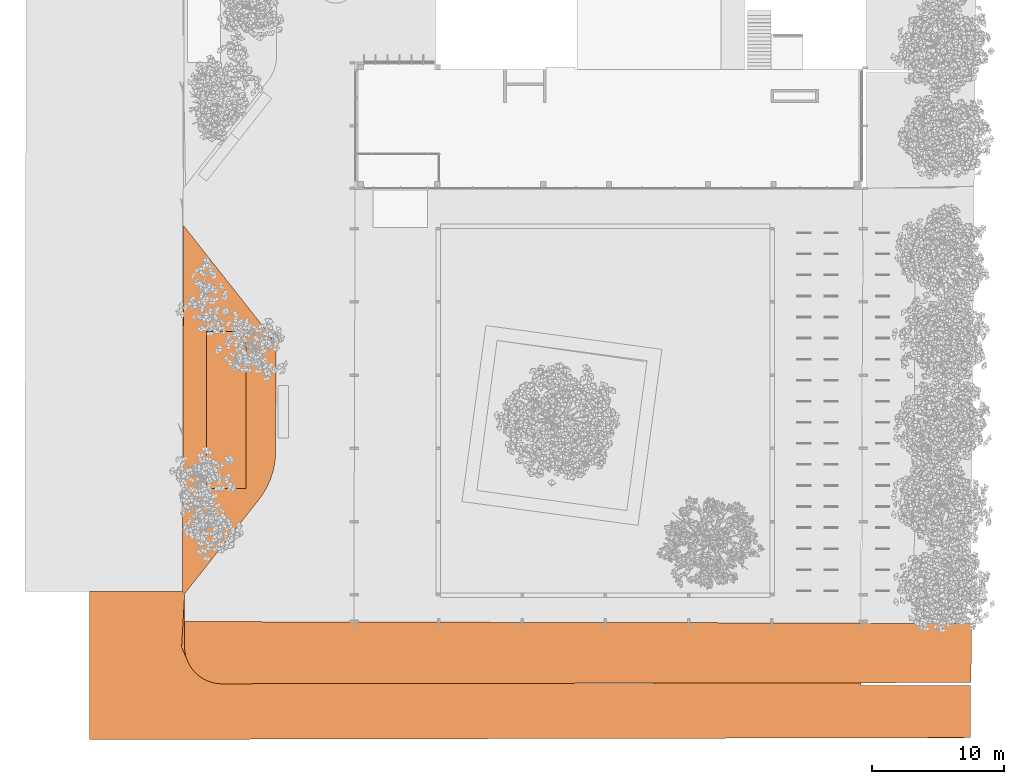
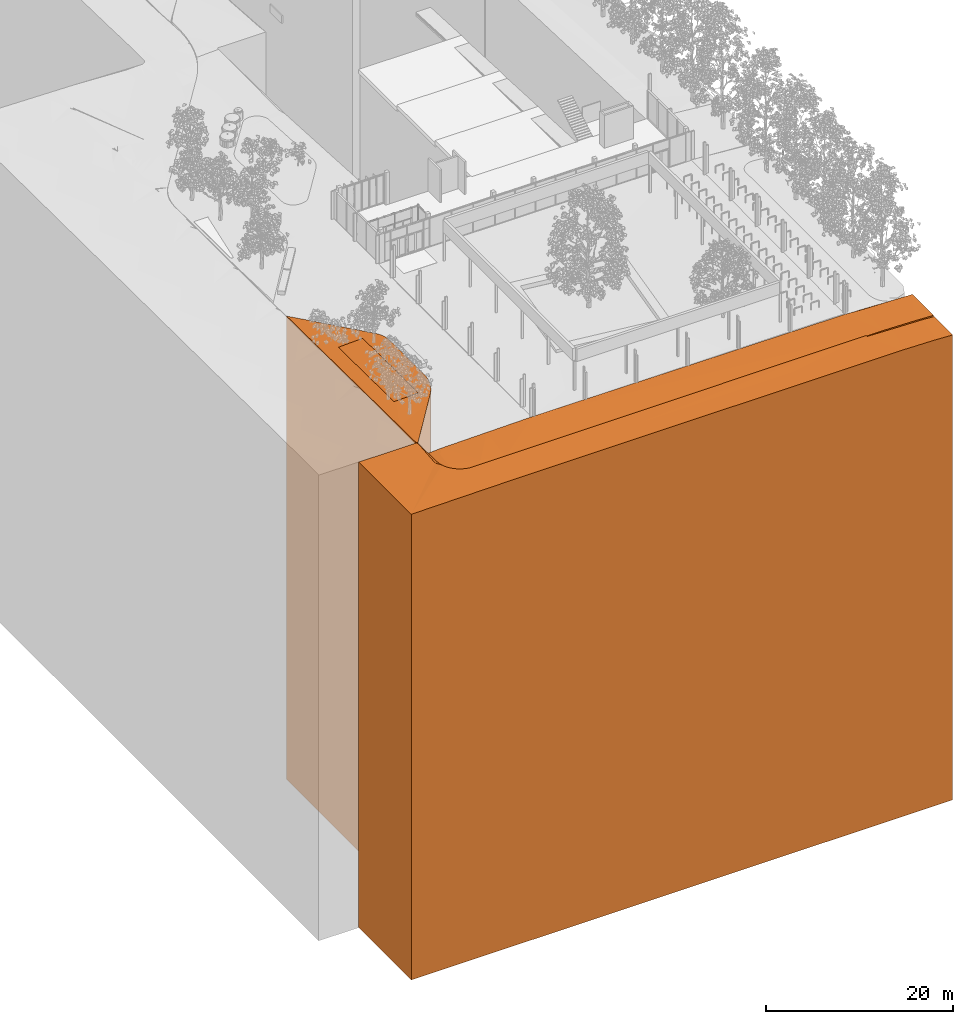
# One storey, part 48 of 69: 4 proxies.
"""IFC2X3 building model written with IfcOpenShell, lengths in millimetres."""

from ifc_helpers import new_model, entity, si_unit, converted_unit, derived_unit, money_unit, direction, frame, origin_with_axes, place, context, subcontext, project, spatial, faceted_brep, material, type_object, element, save


model = new_model("IFC2X3")

# Units and contexts
model_context = context("Model", 3, precision=0.01, world=origin_with_axes(), true_north=direction((0.0, 1.0)))
body_context = subcontext(model_context, "Body", "Model", "MODEL_VIEW")
ifc_project = project(units=[si_unit("LENGTHUNIT", "METRE", prefix="MILLI"), si_unit("AREAUNIT", "SQUARE_METRE"), si_unit("VOLUMEUNIT", "CUBIC_METRE"), converted_unit("PLANEANGLEUNIT", "DEGREE", entity("IfcPlaneAngleMeasure", 0.0174532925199), si_unit("PLANEANGLEUNIT", "RADIAN"), dimensions=[0, 0, 0, 0, 0, 0, 0]), si_unit("SOLIDANGLEUNIT", "STERADIAN"), money_unit("EUR"), converted_unit("TIMEUNIT", "Year", entity("IfcTimeMeasure", 31556926.0), si_unit("TIMEUNIT", "SECOND"), dimensions=[0, 0, 1, 0, 0, 0, 0]), si_unit("MASSUNIT", "GRAM", prefix="KILO"), si_unit("THERMODYNAMICTEMPERATUREUNIT", "DEGREE_CELSIUS"), si_unit("LUMINOUSINTENSITYUNIT", "LUMEN"), si_unit("ENERGYUNIT", "JOULE", prefix="MEGA"), derived_unit("THERMALCONDUCTANCEUNIT", [(si_unit("POWERUNIT", "WATT"), 1), (si_unit("LENGTHUNIT", "METRE"), -1), (si_unit("THERMODYNAMICTEMPERATUREUNIT", "KELVIN"), -1)]), derived_unit("SPECIFICHEATCAPACITYUNIT", [(si_unit("ENERGYUNIT", "JOULE"), 1), (si_unit("MASSUNIT", "GRAM", prefix="KILO"), -1), (si_unit("THERMODYNAMICTEMPERATUREUNIT", "KELVIN"), -1)]), derived_unit("MASSDENSITYUNIT", [(si_unit("MASSUNIT", "GRAM", prefix="KILO"), 1), (si_unit("VOLUMEUNIT", "CUBIC_METRE"), -1)])], contexts=[model_context])

# Site, building, storey
site_placement = place(None, origin_with_axes())
site = spatial("IfcSite", under=ifc_project, at=site_placement, Name="Puškini 31, Narva", CompositionType="ELEMENT")
building_placement = place(site_placement, origin_with_axes())
building = spatial("IfcBuilding", under=site, at=building_placement, Name="Narva Riigigümnaasium", CompositionType="ELEMENT")
storey_placement = place(building_placement, origin_with_axes())
storey = spatial("IfcBuildingStorey", under=building, at=storey_placement, Name="1.korrus 0.00", CompositionType="ELEMENT", Elevation=0.0)

# Proxies
ifc_material_1 = material(Name="Roheala")
building_element_proxy_type_1 = type_object("IfcBuildingElementProxyType", Name="Roheala", PredefinedType="NOTDEFINED")
proxy_1_placement = place(storey_placement, frame((2774.15413761, 119172.132601, -61100.0), z_axis=(0.0, 0.0, 1.0), x_axis=(1.0, 0.0, 0.0)))
element("IfcBuildingElementProxy", 1, at=proxy_1_placement, inside=storey, type_object=building_element_proxy_type_1, material=ifc_material_1, Name="Roheala", context=body_context, shape_type="Brep", body=[
    faceted_brep([(4825.63867987, 19923.3089238, 60816.1402617), (4825.63867987, 13461.9484212, 60892.0731294), (5240.22777887, 14308.0528302, 60900.0), (4960.60028011, 21791.7442081, 60800.0), (4451.18321371, 19923.3089238, 60800.0), (4825.63867987, 19923.3089238, 32257.881548), (4825.63867987, 7991.30514458, 32257.881548), (4825.63867987, 7991.30514458, 60901.2047641), (4825.63867987, 8354.89297496, 60900.0), (6470.25903788, 19880.0733385, 60890.0), (2131.17457914, 19923.3089238, 60700.0), (3236.0033531, 23975.5898556, 60700.0), (1832.46950617, 19923.3089238, 60687.1248293), (1832.46950617, 19923.3089238, 32257.881548), (1832.46950617, 7991.30514458, 32257.881548), (4800.31774869, 7991.30514458, 60900.0), (1832.46950617, 7991.30514458, 60827.3478154), (2145.03680281, 7991.30514458, 60840.8204935), (4654.822459, 5902.11196556, 60900.0), (5790.7729983, 7123.84475448, 60950.0), (6717.50851466, 19505.6808715, 60900.0), (6470.25903788, 19880.0733385, 0.0), (4960.60028011, 21791.7442081, 0.0), (76.5266882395, 27976.4141958, 0.0), (76.5266882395, 27976.4141958, 60500.0), (1511.40642609, 26159.435503, 60600.0), (60.3245365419, 20837.1705421, 60600.0), (35.1893130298, 12235.6732219, 60700.0), (1832.46950617, 18827.721173, 60700.0), (1832.46950617, 10318.4145974, 60800.0), (10.0540894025, 3634.17590181, 60800.0), (165.18756994, 0.0, 60900.0), (5867.12988404, 7220.5508158, 60950.0), (6581.21980933, 19729.1790257, 60890.9943501), (7097.52030184, 18037.9322682, 60900.0), (6581.21980933, 19729.1790257, 0.0), (6674.98604806, 19581.9145475, 0.0), (6717.50851466, 19505.6808715, 0.0), (6742.25604605, 19463.0906922, 0.0), (6820.27817634, 19306.9129689, 0.0), (6889.08737852, 19146.4628901, 0.0), (6948.45082405, 18982.2833682, 0.0), (6998.16764581, 18814.9299347, 0.0), (7038.06961782, 18644.9688606, 0.0), (7068.02172443, 18472.9752404, 0.0), (7087.92261719, 18299.5310461, 0.0), (7097.70495779, 18125.2231579, 0.0), (7097.52030184, 18037.9322682, 0.0), (7081.69872227, 10828.8625457, 0.0), (7079.94003868, 10651.0748311, 0.0), (7067.04399308, 10404.9784329, 0.0), (7044.0553256, 10159.6189694, 0.0), (7011.01280034, 9915.41017202, 0.0), (6967.97213448, 9672.76383212, 0.0), (6915.00590431, 9432.08910629, 0.0), (6852.20342287, 9193.79182659, 0.0), (6779.67058937, 8958.27381613, 0.0), (6697.52971057, 8725.93221155, 0.0), (6605.91929457, 8497.15879337, 0.0), (6504.99381725, 8272.33932531, 0.0), (6394.92346181, 8051.85290387, 0.0), (6275.89383175, 7836.07131903, 0.0), (6148.10563798, 7625.35842735, 0.0), (6011.77436028, 7420.06953844, 0.0), (5867.12988404, 7220.5508158, 0.0), (5790.7729983, 7123.84475448, 0.0), (165.18756994, 0.0, 0.0), (0.0, 193.576973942, 0.0), (0.0, 193.576973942, 60900.0), (6011.77436028, 7420.06953844, 60950.0), (6674.98604806, 19581.9145475, 60891.9222316), (7081.69872227, 10828.8625457, 60950.0), (6998.16764581, 18814.9299347, 60896.096912), (6742.25604605, 19463.0906922, 60892.6231794), (6820.27817634, 19306.9129689, 60893.4807876), (6889.08737852, 19146.4628901, 60894.3475712), (6948.45082405, 18982.2833682, 60895.2205973), (7038.06961782, 18644.9688606, 60896.9735499), (7068.02172443, 18472.9752404, 60897.847545), (7087.92261719, 18299.5310461, 60898.7159398), (7097.70495779, 18125.2231579, 60899.575796), (7079.94003868, 10651.0748311, 60950.0), (7067.04399308, 10404.9784329, 60950.0), (7044.0553256, 10159.6189694, 60950.0), (7011.01280034, 9915.41017202, 60950.0), (6967.97213448, 9672.76383212, 60950.0), (6915.00590431, 9432.08910629, 60950.0), (6852.20342287, 9193.79182659, 60950.0), (6779.67058937, 8958.27381613, 60950.0), (6697.52971057, 8725.93221155, 60950.0), (6605.91929457, 8497.15879337, 60950.0), (6504.99381725, 8272.33932531, 60950.0), (6394.92346181, 8051.85290387, 60950.0), (6275.89383175, 7836.07131903, 60950.0), (6148.10563798, 7625.35842735, 60950.0)], [[[0, 1, 2, 3, 4]], [[1, 0, 5, 6, 7, 8]], [[1, 8, 2]], [[2, 9, 3]], [[10, 4, 3, 11]], [[0, 4, 10, 12, 13, 5]], [[5, 13, 14, 6]], [[15, 7, 6, 14, 16, 17]], [[7, 15, 18, 19, 2, 8]], [[20, 9, 2]], [[21, 22, 3, 9]], [[22, 23, 24, 25, 11, 3]], [[12, 10, 11, 25, 26, 27, 28]], [[12, 28, 29, 16, 14, 13]], [[16, 29, 30, 17]], [[15, 17, 30, 18]], [[19, 18, 31]], [[19, 32, 2]], [[33, 9, 20]], [[2, 34, 20]], [[22, 21, 35, 36, 37, 38, 39, 40, 41, 42, 43, 44, 45, 46, 47, 48, 49, 50, 51, 52, 53, 54, 55, 56, 57, 58, 59, 60, 61, 62, 63, 64, 65, 66, 67, 23]], [[35, 21, 9, 33]], [[23, 67, 68, 24]], [[25, 24, 26]], [[27, 26, 24, 30]], [[29, 28, 27, 30]], [[30, 31, 18]], [[66, 65, 19, 31]], [[65, 64, 32, 19]], [[32, 69, 2]], [[20, 70, 33]], [[71, 34, 2]], [[20, 34, 72]], [[36, 35, 33, 70]], [[37, 36, 70, 20]], [[38, 37, 20, 73]], [[39, 38, 73, 74]], [[40, 39, 74, 75]], [[41, 40, 75, 76]], [[42, 41, 76, 72]], [[43, 42, 72, 77]], [[44, 43, 77, 78]], [[45, 44, 78, 79]], [[46, 45, 79, 80]], [[47, 46, 80, 34]], [[48, 47, 34, 71]], [[49, 48, 71, 81]], [[50, 49, 81, 82]], [[51, 50, 82, 83]], [[52, 51, 83, 84]], [[53, 52, 84, 85]], [[54, 53, 85, 86]], [[55, 54, 86, 87]], [[56, 55, 87, 88]], [[57, 56, 88, 89]], [[58, 57, 89, 90]], [[59, 58, 90, 91]], [[60, 59, 91, 92]], [[61, 60, 92, 93]], [[62, 61, 93, 94]], [[63, 62, 94, 69]], [[64, 63, 69, 32]], [[67, 66, 31, 68]], [[68, 30, 24]], [[30, 68, 31]], [[69, 94, 2]], [[81, 71, 2]], [[78, 77, 72, 34, 80, 79]], [[72, 76, 20]], [[74, 73, 20]], [[75, 74, 20]], [[76, 75, 20]], [[82, 81, 2]], [[83, 82, 2]], [[84, 83, 2]], [[85, 84, 2]], [[86, 85, 2]], [[87, 86, 2]], [[88, 87, 2]], [[89, 88, 2]], [[90, 89, 2]], [[91, 90, 2]], [[92, 91, 2]], [[93, 92, 2]], [[94, 93, 2]]]),
])
ifc_material_2 = material(Name="Sillutiskivi")
building_element_proxy_type_2 = type_object("IfcBuildingElementProxyType", Name="Sillutiskivi", PredefinedType="NOTDEFINED")
proxy_2_placement = place(storey_placement, frame((2930.58514383, 112324.27083, -61100.0), z_axis=(0.0, 0.0, 1.0), x_axis=(1.0, 0.0, 0.0)))
element("IfcBuildingElementProxy", 2, at=proxy_2_placement, inside=storey, type_object=building_element_proxy_type_2, material=ifc_material_2, Name="Kergliiklustee", context=body_context, shape_type="Brep", body=[
    faceted_brep([(806.197300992, 1641.80617285, 60900.0), (957.892684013, 3727.66316179, 60900.0), (9.46257787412, 2603.0464292, 60800.0), (4191.0815358, 679.800824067, 60900.0), (1719.62662806, 4724.80547975, 60900.0), (-0.178361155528, 2771.75536644, 60800.0), (29.0810082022, 2435.20492539, 60800.0), (2506.56804783, 19.5065082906, 60800.0), (7271.83500329, 4712.63890108, 61000.0), (4.27615077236, 4728.56433481, 60800.0), (9.46257787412, 2603.0464292, 0.0), (-0.178361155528, 2771.75536644, 0.0), (0.006847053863, 2856.24725363, 60800.0), (58.6080193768, 2268.82040441, 60800.0), (29.0810082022, 2435.20492539, 0.0), (2339.49099468, 44.8227386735, 60800.0), (2674.85141824, 4.13248953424, 60800.0), (4196.60699982, 676.118082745, 60900.0), (4.27615077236, 4728.56433481, 0.0), (12897.320027, 4700.31175097, 61100.0), (51457.2400802, 4615.81522829, 61000.0), (56633.6666627, 4604.47210192, 60800.0), (59813.8369232, 4597.50338082, 60700.0), (59813.8369232, 4597.50338082, 0.0), (0.006847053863, 2856.24725363, 0.0), (59782.2853233, 88.3600568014, 0.0), (5205.55223009, 3.65257402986, 0.0), (2854.42342565, 0.00343275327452, 0.0), (2674.85141824, 4.13248953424, 0.0), (2506.56804783, 19.5065082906, 0.0), (2339.49099468, 44.8227386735, 0.0), (2174.20712303, 79.9922565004, 0.0), (2011.29699852, 124.891527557, 0.0), (1851.33284889, 179.362841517, 0.0), (1694.87655406, 243.214865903, 0.0), (1542.47767247, 316.22331815, 0.0), (1394.67151074, 398.131753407, 0.0), (1251.97724342, 488.652465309, 0.0), (1114.89608931, 587.467496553, 0.0), (983.909550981, 694.229755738, 0.0), (859.477723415, 808.564236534, 0.0), (742.037677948, 930.069334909, 0.0), (632.001927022, 1058.31825977, 0.0), (529.756975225, 1192.8605321, 0.0), (435.661961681, 1333.22356725, 0.0), (350.047398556, 1478.91433494, 0.0), (273.214010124, 1629.42109104, 0.0), (205.431676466, 1784.21517509, 0.0), (146.938485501, 1942.7528672, 0.0), (97.9398966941, 2104.47729796, 0.0), (58.6080193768, 2268.82040441, 0.0), (97.9398966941, 2104.47729796, 60800.0), (2174.20712303, 79.9922565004, 60800.0), (2854.42342565, 0.00343275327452, 60800.0), (6843.33768447, 6.19454897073, 60800.0), (53604.0268606, 78.7709023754, 60900.0), (53630.4040167, 4572.75956829, 60900.0), (57429.5444773, 84.7084136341, 60800.0), (59782.2853233, 88.3600568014, 60700.0), (5205.55223009, 3.65257402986, 60800.0), (2011.29699852, 124.891527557, 60800.0), (1851.33284889, 179.362841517, 60800.0), (1694.87655406, 243.214865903, 60800.0), (1542.47767247, 316.22331815, 60800.0), (1394.67151074, 398.131753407, 60800.0), (1251.97724342, 488.652465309, 60800.0), (1114.89608931, 587.467496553, 60800.0), (983.909550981, 694.229755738, 60800.0), (859.477723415, 808.564236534, 60800.0), (742.037677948, 930.069334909, 60800.0), (632.001927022, 1058.31825977, 60800.0), (529.756975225, 1192.8605321, 60800.0), (435.661961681, 1333.22356725, 60800.0), (350.047398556, 1478.91433494, 60800.0), (273.214010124, 1629.42109104, 60800.0), (205.431676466, 1784.21517509, 60800.0), (146.938485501, 1942.7528672, 60800.0)], [[[0, 1, 2]], [[1, 0, 3, 4]], [[5, 2, 1]], [[6, 0, 2]], [[0, 7, 3]], [[4, 3, 8]], [[4, 9, 1]], [[10, 2, 5, 11]], [[12, 5, 1]], [[13, 0, 6]], [[14, 6, 2, 10]], [[15, 7, 0]], [[16, 3, 7]], [[3, 17, 8]], [[18, 9, 4, 8, 19, 20, 21, 22, 23]], [[12, 1, 9]], [[11, 5, 12, 24]], [[18, 23, 25, 26, 27, 28, 29, 30, 31, 32, 33, 34, 35, 36, 37, 38, 39, 40, 41, 42, 43, 44, 45, 46, 47, 48, 49, 50, 14, 10, 11, 24]], [[51, 0, 13]], [[50, 13, 6, 14]], [[29, 7, 15, 30]], [[52, 15, 0]], [[53, 3, 16]], [[28, 16, 7, 29]], [[53, 17, 3]], [[54, 8, 17]], [[24, 12, 9, 18]], [[19, 8, 54]], [[20, 19, 55]], [[21, 20, 56]], [[22, 21, 57]], [[23, 22, 58, 25]], [[25, 58, 57, 55, 54, 59, 26]], [[26, 59, 53, 27]], [[27, 53, 16, 28]], [[30, 15, 52, 31]], [[31, 52, 60, 32]], [[32, 60, 61, 33]], [[33, 61, 62, 34]], [[34, 62, 63, 35]], [[35, 63, 64, 36]], [[36, 64, 65, 37]], [[37, 65, 66, 38]], [[38, 66, 67, 39]], [[39, 67, 68, 40]], [[40, 68, 69, 41]], [[41, 69, 70, 42]], [[42, 70, 71, 43]], [[43, 71, 72, 44]], [[44, 72, 73, 45]], [[45, 73, 74, 46]], [[46, 74, 75, 47]], [[47, 75, 76, 48]], [[48, 76, 51, 49]], [[49, 51, 13, 50]], [[76, 0, 51]], [[60, 52, 0]], [[53, 59, 17]], [[54, 17, 59]], [[54, 55, 19]], [[55, 56, 20]], [[21, 56, 55]], [[55, 57, 21]], [[58, 22, 57]], [[61, 60, 0]], [[62, 61, 0]], [[63, 62, 0]], [[64, 63, 0]], [[65, 64, 0]], [[66, 65, 0]], [[67, 66, 0]], [[68, 67, 0]], [[69, 68, 0]], [[69, 0, 70]], [[70, 0, 71]], [[71, 0, 72]], [[72, 0, 73]], [[73, 0, 74]], [[74, 0, 75]], [[75, 0, 76]]]),
])
proxy_3_placement = place(storey_placement, frame((-4288.5429488, 108084.143186, -61100.0), z_axis=(0.0, 0.0, 1.0), x_axis=(1.0, 0.0, 0.0)))
element("IfcBuildingElementProxy", 3, at=proxy_3_placement, inside=storey, type_object=building_element_proxy_type_2, material=ifc_material_2, Name="Läbipääsutee", context=body_context, shape_type="Brep", body=[
    faceted_brep([(65428.3459601, 4093.69482794, 60800.0), (65123.77564, 1022.62155529, 60800.0), (66935.8099669, 4093.37384065, 60700.0), (61659.6859433, 4094.49729709, 60900.0), (61524.3213566, 2729.57584247, 60900.0), (66935.8099669, 140.606945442, 60700.0), (58644.7579298, 4095.13927166, 0.0), (58644.7579298, 4095.13927166, 61000.0), (66935.8099669, 4093.37384065, 0.0), (64837.9414321, 144.308765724, 60800.0), (60677.5005426, 127.460592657, 60900.0), (66935.8099669, 140.606945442, 0.0), (58651.157703, 4294.47970095, 0.0), (58651.157703, 4294.47970095, 61000.0), (0.0, 0.0, 0.0), (6.44603504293, 11254.0847591, 0.0), (7078.21377729, 11238.102185, 0.0), (7227.88465635, 11087.9894147, 0.0), (7236.48471242, 6776.07115234, 0.0), (7245.79534032, 6692.09362254, 0.0), (7274.33365537, 6525.53667197, 0.0), (7312.68878781, 6360.96286778, 0.0), (7360.72601385, 6198.95028146, 0.0), (7418.27660098, 6040.06798813, 0.0), (7485.13840065, 5884.87406765, 0.0), (7561.07655837, 5733.91364432, 0.0), (7645.82433858, 5587.71697212, 0.0), (7739.0840616, 5446.79757221, 0.0), (7840.52814928, 5311.65042912, 0.0), (7949.80027554, 5182.75025211, 0.0), (8066.51661805, 5060.54980775, 0.0), (8190.26720642, 4945.47832958, 0.0), (8320.61736217, 4837.94001034, 0.0), (8457.10922564, 4738.3125823, 0.0), (8599.26336418, 4646.94599045, 0.0), (8746.5804562, 4564.16116327, 0.0), (8898.54304502, 4490.24888548, 0.0), (9054.61735652, 4425.46877666, 0.0), (9214.25517399, 4370.04837929, 0.0), (9376.89576377, 4324.18235955, 0.0), (9541.96784486, 4288.0318235, 0.0), (9708.89159554, 4261.72375122, 0.0), (9778.40335121, 4254.99464427, 0.0), (53484.3170185, 112.350421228, 60900.0), (44374.7531383, 93.2146559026, 60900.0), (34236.5787682, 71.9181670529, 60900.0), (25088.8067981, 52.7021409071, 60900.0), (13317.9084892, 27.975913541, 60900.0), (0.0, 0.0, 60800.0), (9778.40335121, 4254.99464427, 60900.0), (6.44603504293, 11254.0847591, 60800.0), (7078.21377729, 11238.102185, 60800.0), (7227.88465635, 11087.9894147, 60800.0), (7236.48471242, 6776.07115234, 60900.0), (7245.79534032, 6692.09362254, 60900.0), (7274.33365537, 6525.53667197, 60900.0), (7312.68878781, 6360.96286778, 60900.0), (7360.72601385, 6198.95028146, 60900.0), (7418.27660098, 6040.06798813, 60900.0), (7485.13840065, 5884.87406765, 60900.0), (7561.07655837, 5733.91364432, 60900.0), (7645.82433858, 5587.71697212, 60900.0), (7739.0840616, 5446.79757221, 60900.0), (7840.52814928, 5311.65042912, 60900.0), (7949.80027554, 5182.75025211, 60900.0), (8066.51661805, 5060.54980775, 60900.0), (8190.26720642, 4945.47832958, 60900.0), (8320.61736217, 4837.94001034, 60900.0), (8457.10922564, 4738.3125823, 60900.0), (8599.26336418, 4646.94599045, 60900.0), (8746.5804562, 4564.16116327, 60900.0), (8898.54304502, 4490.24888548, 60900.0), (9054.61735652, 4425.46877666, 60900.0), (9214.25517399, 4370.04837929, 60900.0), (9376.89576377, 4324.18235955, 60900.0), (9541.96784486, 4288.0318235, 60900.0), (9708.89159554, 4261.72375122, 60900.0), (48892.2150136, 2499.73696078, 60900.0), (29658.0966392, 2458.24526236, 60900.0), (9547.35328086, 4106.46097899, 60900.0), (9404.91828715, 3963.49599075, 60900.0), (2706.28990348, 10319.2187397, 60800.0), (2200.07984627, 11117.6000221, 60800.0), (6995.84539635, 7021.8766413, 60800.0), (4682.88202112, 11152.4066945, 60802.0420381)], [[[0, 1, 2]], [[0, 3, 4, 1]], [[5, 2, 1]], [[6, 7, 3, 0, 2, 8]], [[3, 7, 4]], [[9, 1, 4, 10]], [[8, 2, 5, 11]], [[5, 1, 9]], [[12, 13, 7, 6]], [[11, 14, 15, 16, 17, 18, 19, 20, 21, 22, 23, 24, 25, 26, 27, 28, 29, 30, 31, 32, 33, 34, 35, 36, 37, 38, 39, 40, 41, 42, 12, 6, 8]], [[10, 4, 7]], [[10, 5, 9]], [[11, 5, 10, 43, 44, 45, 46, 47, 48, 14]], [[42, 49, 13, 12]], [[7, 13, 43]], [[14, 48, 50, 15]], [[15, 50, 51, 16]], [[16, 51, 52, 17]], [[17, 52, 53, 18]], [[18, 53, 54, 19]], [[19, 54, 55, 20]], [[20, 55, 56, 21]], [[21, 56, 57, 22]], [[22, 57, 58, 23]], [[23, 58, 59, 24]], [[24, 59, 60, 25]], [[25, 60, 61, 26]], [[26, 61, 62, 27]], [[27, 62, 63, 28]], [[28, 63, 64, 29]], [[29, 64, 65, 30]], [[30, 65, 66, 31]], [[31, 66, 67, 32]], [[32, 67, 68, 33]], [[33, 68, 69, 34]], [[34, 69, 70, 35]], [[35, 70, 71, 36]], [[36, 71, 72, 37]], [[37, 72, 73, 38]], [[38, 73, 74, 39]], [[39, 74, 75, 40]], [[40, 75, 76, 41]], [[41, 76, 49, 42]], [[43, 10, 7]], [[44, 43, 77]], [[78, 45, 44, 77]], [[45, 78, 46]], [[74, 79, 80, 47, 46, 78, 49, 76, 75]], [[48, 47, 80]], [[78, 13, 49]], [[13, 77, 43]], [[81, 82, 50, 48, 83]], [[84, 51, 50]], [[51, 84, 52]], [[53, 52, 83]], [[53, 83, 54]], [[54, 83, 55]], [[55, 83, 56]], [[56, 83, 57]], [[58, 57, 48]], [[59, 58, 48]], [[60, 59, 48]], [[61, 60, 48]], [[62, 61, 48]], [[63, 62, 48]], [[64, 63, 48]], [[65, 64, 48]], [[66, 65, 48]], [[67, 66, 48]], [[68, 67, 48]], [[69, 68, 80, 79, 74, 73, 72, 71, 70]], [[77, 13, 78]], [[48, 80, 68]], [[84, 82, 81]], [[84, 50, 82]], [[48, 57, 83]], [[84, 81, 83]], [[84, 83, 52]]]),
])
ifc_material_3 = material(Name="Petankiväljak")
building_element_proxy_type_3 = type_object("IfcBuildingElementProxyType", Name="Petankiväljak 30000", PredefinedType="NOTDEFINED")
proxy_4_placement = place(storey_placement, frame((4606.62364378, 127163.437746, 1157.88154799), z_axis=(0.0, 0.0, 1.0), x_axis=(1.0, 0.0, 0.0)))
element("IfcBuildingElementProxy", 4, at=proxy_4_placement, inside=storey, type_object=building_element_proxy_type_3, material=ifc_material_3, Name="Petankiväljak", context=body_context, shape_type="Brep", body=[
    faceted_brep([(2618.71370754, 11932.0037792, -1457.88154799), (2993.16917371, 11932.0037792, -1441.74128624), (2993.16917371, 11932.0037792, -30000.0), (0.0, 11932.0037792, -30000.0), (0.0, 11932.0037792, -1570.75671873), (298.705072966, 11932.0037792, -1557.88154799), (0.0, 2327.10945286, -1457.88154799), (0.0, 0.0, -1430.5337326), (312.567296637, 0.0, -1417.06105444), (2993.16917371, 5470.64327663, -1365.80841856), (2993.16917371, 363.587830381, -1357.88154799), (2993.16917371, 0.0, -1356.67678393), (2993.16917371, 0.0, -30000.0), (0.0, 0.0, -30000.0), (0.0, 10836.4160285, -1557.88154799), (2967.84824252, 0.0, -1357.88154799)], [[[0, 1, 2, 3, 4, 5]], [[1, 0, 6, 7, 8, 9]], [[10, 11, 12, 2, 1, 9]], [[2, 12, 13, 3]], [[14, 4, 3, 13, 7, 6]], [[5, 4, 14]], [[0, 5, 14, 6]], [[8, 7, 13, 12, 11, 15]], [[10, 9, 8, 15]], [[11, 10, 15]]]),
])

save(model, "model.ifc")
